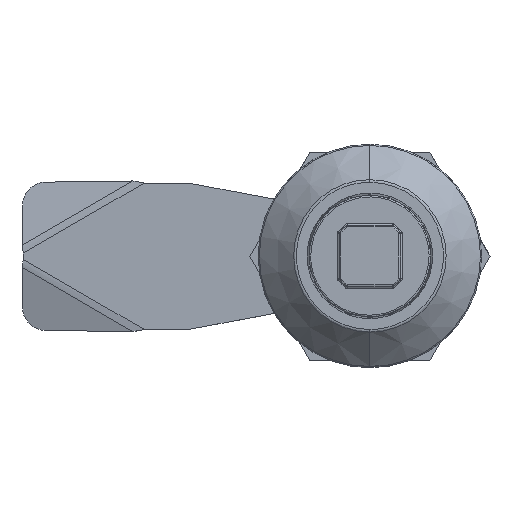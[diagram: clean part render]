
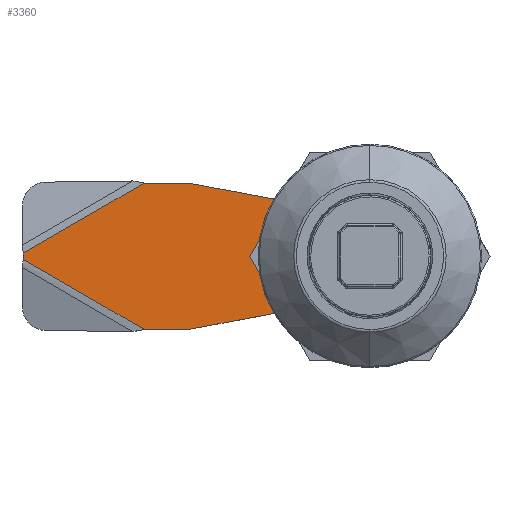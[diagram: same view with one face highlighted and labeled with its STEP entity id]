
A CAD part, top view. The second image highlights one B-rep face of the part: STEP entity #3360.
In plain terms, the highlighted planar face has unit normal (0, 0, 1).
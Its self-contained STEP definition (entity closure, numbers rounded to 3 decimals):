
#19 = AXIS2_PLACEMENT_3D ( 'NONE', #7993, #2541, #8928 ) ;
#62 = LINE ( 'NONE', #11150, #6136 ) ;
#123 = AXIS2_PLACEMENT_3D ( 'NONE', #7961, #2502, #8900 ) ;
#168 = CARTESIAN_POINT ( 'NONE',  ( 45., 0.433, 3. ) ) ;
#295 = DIRECTION ( 'NONE',  ( 0., 0., -1. ) ) ;
#407 = ORIENTED_EDGE ( 'NONE', *, *, #3313, .F. ) ;
#438 = VERTEX_POINT ( 'NONE', #9801 ) ;
#439 = LINE ( 'NONE', #10475, #3119 ) ;
#455 = DIRECTION ( 'NONE',  ( 0., 1., 0. ) ) ;
#465 = DIRECTION ( 'NONE',  ( 0., 0., 1. ) ) ;
#488 = LINE ( 'NONE', #5425, #5020 ) ;
#661 = LINE ( 'NONE', #2211, #5192 ) ;
#840 = DIRECTION ( 'NONE',  ( 1., 0., 0. ) ) ;
#861 = VERTEX_POINT ( 'NONE', #3829 ) ;
#1141 = VERTEX_POINT ( 'NONE', #10988 ) ;
#1231 = DIRECTION ( 'NONE',  ( 0., -1., 0. ) ) ;
#1270 = EDGE_LOOP ( 'NONE', ( #10402, #2420, #1677, #6710 ) ) ;
#1354 = CARTESIAN_POINT ( 'NONE',  ( 45., 6.5, 3. ) ) ;
#1489 = LINE ( 'NONE', #8559, #3616 ) ;
#1502 = DIRECTION ( 'NONE',  ( -0.866, -0.5, 0. ) ) ;
#1543 = CARTESIAN_POINT ( 'NONE',  ( 4.05, -4.05, 3. ) ) ;
#1677 = ORIENTED_EDGE ( 'NONE', *, *, #11009, .T. ) ;
#1770 = FACE_BOUND ( 'NONE', #1270, .T. ) ;
#1807 = EDGE_CURVE ( 'NONE', #438, #10769, #439, .T. ) ;
#1876 = VERTEX_POINT ( 'NONE', #3227 ) ;
#1964 = ORIENTED_EDGE ( 'NONE', *, *, #7784, .T. ) ;
#2126 = CARTESIAN_POINT ( 'NONE',  ( 4.05, 4.05, 3. ) ) ;
#2211 = CARTESIAN_POINT ( 'NONE',  ( 4.05, -4.05, 3. ) ) ;
#2298 = ORIENTED_EDGE ( 'NONE', *, *, #5026, .T. ) ;
#2420 = ORIENTED_EDGE ( 'NONE', *, *, #1807, .T. ) ;
#2499 = CARTESIAN_POINT ( 'NONE',  ( 10., -9.5, 3. ) ) ;
#2502 = DIRECTION ( 'NONE',  ( 0., 0., -1. ) ) ;
#2537 = ORIENTED_EDGE ( 'NONE', *, *, #2621, .F. ) ;
#2541 = DIRECTION ( 'NONE',  ( 0., 0., -1. ) ) ;
#2621 = EDGE_CURVE ( 'NONE', #7794, #8469, #11043, .T. ) ;
#2768 = LINE ( 'NONE', #4438, #7618 ) ;
#2869 = VERTEX_POINT ( 'NONE', #5802 ) ;
#3119 = VECTOR ( 'NONE', #4985, 1000. ) ;
#3227 = CARTESIAN_POINT ( 'NONE',  ( 9.593, 7.033, 3. ) ) ;
#3313 = EDGE_CURVE ( 'NONE', #1141, #5541, #6597, .T. ) ;
#3352 = VECTOR ( 'NONE', #455, 1000. ) ;
#3355 = CARTESIAN_POINT ( 'NONE',  ( 9.593, -7.033, 3. ) ) ;
#3360 = ADVANCED_FACE ( 'NONE', ( #1770, #3869 ), #10656, .F. ) ;
#3412 = DIRECTION ( 'NONE',  ( -1., 0., 0. ) ) ;
#3530 = AXIS2_PLACEMENT_3D ( 'NONE', #5711, #295, #6637 ) ;
#3560 = CARTESIAN_POINT ( 'NONE',  ( 42., -9.5, 3. ) ) ;
#3616 = VECTOR ( 'NONE', #1231, 1000. ) ;
#3654 = DIRECTION ( 'NONE',  ( 0.983, -0.185, 0. ) ) ;
#3709 = ORIENTED_EDGE ( 'NONE', *, *, #6350, .F. ) ;
#3826 = VERTEX_POINT ( 'NONE', #8893 ) ;
#3829 = CARTESIAN_POINT ( 'NONE',  ( 1.383, 8.387, 3. ) ) ;
#3869 = FACE_OUTER_BOUND ( 'NONE', #4840, .T. ) ;
#3942 = VERTEX_POINT ( 'NONE', #5830 ) ;
#4020 = CARTESIAN_POINT ( 'NONE',  ( 9.593, 7.033, 3. ) ) ;
#4039 = CARTESIAN_POINT ( 'NONE',  ( 23.5, 9.5, 3. ) ) ;
#4046 = CIRCLE ( 'NONE', #3530, 8.5 ) ;
#4241 = EDGE_CURVE ( 'NONE', #6066, #2869, #62, .T. ) ;
#4368 = LINE ( 'NONE', #4020, #11670 ) ;
#4438 = CARTESIAN_POINT ( 'NONE',  ( 42., 9.5, 3. ) ) ;
#4512 = VERTEX_POINT ( 'NONE', #10660 ) ;
#4572 = CARTESIAN_POINT ( 'NONE',  ( 10.463, -7.043, 3. ) ) ;
#4610 = CARTESIAN_POINT ( 'NONE',  ( 45., -0.433, 3. ) ) ;
#4635 = VECTOR ( 'NONE', #1502, 1000. ) ;
#4840 = EDGE_LOOP ( 'NONE', ( #10427, #407, #8805, #6189, #6096, #2298, #6787, #8588, #1964, #2537, #6393, #7086, #3709 ) ) ;
#4965 = VERTEX_POINT ( 'NONE', #2126 ) ;
#4985 = DIRECTION ( 'NONE',  ( 0., 1., 0. ) ) ;
#5020 = VECTOR ( 'NONE', #6322, 1000. ) ;
#5026 = EDGE_CURVE ( 'NONE', #1876, #861, #4368, .T. ) ;
#5192 = VECTOR ( 'NONE', #8589, 1000. ) ;
#5309 = VERTEX_POINT ( 'NONE', #1543 ) ;
#5425 = CARTESIAN_POINT ( 'NONE',  ( 9.593, -7.033, 3. ) ) ;
#5541 = VERTEX_POINT ( 'NONE', #168 ) ;
#5620 = LINE ( 'NONE', #3560, #10511 ) ;
#5648 = DIRECTION ( 'NONE',  ( -0.983, -0.185, 0. ) ) ;
#5672 = AXIS2_PLACEMENT_3D ( 'NONE', #5886, #465, #6820 ) ;
#5711 = CARTESIAN_POINT ( 'NONE',  ( 0., 0., 3. ) ) ;
#5770 = LINE ( 'NONE', #1354, #3352 ) ;
#5802 = CARTESIAN_POINT ( 'NONE',  ( 10.463, 7.043, 3. ) ) ;
#5830 = CARTESIAN_POINT ( 'NONE',  ( 1.383, -8.387, 3. ) ) ;
#5886 = CARTESIAN_POINT ( 'NONE',  ( 10., 9.5, 3. ) ) ;
#6029 = DIRECTION ( 'NONE',  ( 0.866, -0.5, 0. ) ) ;
#6066 = VERTEX_POINT ( 'NONE', #4039 ) ;
#6069 = EDGE_CURVE ( 'NONE', #4512, #5541, #5770, .T. ) ;
#6096 = ORIENTED_EDGE ( 'NONE', *, *, #10389, .F. ) ;
#6136 = VECTOR ( 'NONE', #5648, 1000. ) ;
#6189 = ORIENTED_EDGE ( 'NONE', *, *, #4241, .T. ) ;
#6264 = DIRECTION ( 'NONE',  ( -1., 0., 0. ) ) ;
#6322 = DIRECTION ( 'NONE',  ( 0.987, 0.163, 0. ) ) ;
#6335 = EDGE_CURVE ( 'NONE', #7794, #9422, #11649, .T. ) ;
#6350 = EDGE_CURVE ( 'NONE', #4512, #11310, #6779, .T. ) ;
#6393 = ORIENTED_EDGE ( 'NONE', *, *, #6335, .T. ) ;
#6396 = EDGE_CURVE ( 'NONE', #3826, #861, #8936, .T. ) ;
#6502 = EDGE_CURVE ( 'NONE', #9422, #11310, #5620, .T. ) ;
#6597 = LINE ( 'NONE', #10621, #9355 ) ;
#6637 = DIRECTION ( 'NONE',  ( -1., 0., 0. ) ) ;
#6710 = ORIENTED_EDGE ( 'NONE', *, *, #10558, .T. ) ;
#6779 = LINE ( 'NONE', #4610, #4635 ) ;
#6787 = ORIENTED_EDGE ( 'NONE', *, *, #6396, .F. ) ;
#6820 = DIRECTION ( 'NONE',  ( -1., 0., 0. ) ) ;
#6938 = AXIS2_PLACEMENT_3D ( 'NONE', #2499, #8895, #3412 ) ;
#7086 = ORIENTED_EDGE ( 'NONE', *, *, #6502, .T. ) ;
#7241 = CARTESIAN_POINT ( 'NONE',  ( -4.05, 4.05, 3. ) ) ;
#7593 = CARTESIAN_POINT ( 'NONE',  ( -4.05, 4.05, 3. ) ) ;
#7618 = VECTOR ( 'NONE', #6264, 1000. ) ;
#7703 = DIRECTION ( 'NONE',  ( -0.987, 0.163, 0. ) ) ;
#7784 = EDGE_CURVE ( 'NONE', #3942, #8469, #488, .T. ) ;
#7794 = VERTEX_POINT ( 'NONE', #8166 ) ;
#7961 = CARTESIAN_POINT ( 'NONE',  ( 10., -9.5, 3. ) ) ;
#7993 = CARTESIAN_POINT ( 'NONE',  ( 0., 0., 3. ) ) ;
#8166 = CARTESIAN_POINT ( 'NONE',  ( 10.463, -7.043, 3. ) ) ;
#8191 = LINE ( 'NONE', #7593, #10356 ) ;
#8469 = VERTEX_POINT ( 'NONE', #3355 ) ;
#8502 = DIRECTION ( 'NONE',  ( 1., 0., 0. ) ) ;
#8559 = CARTESIAN_POINT ( 'NONE',  ( 4.05, 4.05, 3. ) ) ;
#8588 = ORIENTED_EDGE ( 'NONE', *, *, #9573, .F. ) ;
#8589 = DIRECTION ( 'NONE',  ( -1., 0., 0. ) ) ;
#8805 = ORIENTED_EDGE ( 'NONE', *, *, #10718, .T. ) ;
#8893 = CARTESIAN_POINT ( 'NONE',  ( -8.5, 0., 3. ) ) ;
#8895 = DIRECTION ( 'NONE',  ( 0., 0., 1. ) ) ;
#8900 = DIRECTION ( 'NONE',  ( -1., 0., 0. ) ) ;
#8928 = DIRECTION ( 'NONE',  ( -1., 0., 0. ) ) ;
#8936 = CIRCLE ( 'NONE', #19, 8.5 ) ;
#9005 = CARTESIAN_POINT ( 'NONE',  ( 29.295, -9.5, 3. ) ) ;
#9246 = VECTOR ( 'NONE', #3654, 1000. ) ;
#9355 = VECTOR ( 'NONE', #6029, 1000. ) ;
#9422 = VERTEX_POINT ( 'NONE', #11260 ) ;
#9573 = EDGE_CURVE ( 'NONE', #3942, #3826, #4046, .T. ) ;
#9801 = CARTESIAN_POINT ( 'NONE',  ( -4.05, -4.05, 3. ) ) ;
#10356 = VECTOR ( 'NONE', #8502, 1000. ) ;
#10389 = EDGE_CURVE ( 'NONE', #1876, #2869, #11770, .T. ) ;
#10402 = ORIENTED_EDGE ( 'NONE', *, *, #11062, .T. ) ;
#10427 = ORIENTED_EDGE ( 'NONE', *, *, #6069, .T. ) ;
#10475 = CARTESIAN_POINT ( 'NONE',  ( -4.05, -4.05, 3. ) ) ;
#10511 = VECTOR ( 'NONE', #840, 1000. ) ;
#10558 = EDGE_CURVE ( 'NONE', #4965, #5309, #1489, .T. ) ;
#10621 = CARTESIAN_POINT ( 'NONE',  ( 29.295, 9.5, 3. ) ) ;
#10656 = PLANE ( 'NONE',  #123 ) ;
#10660 = CARTESIAN_POINT ( 'NONE',  ( 45., -0.433, 3. ) ) ;
#10718 = EDGE_CURVE ( 'NONE', #1141, #6066, #2768, .T. ) ;
#10769 = VERTEX_POINT ( 'NONE', #7241 ) ;
#10988 = CARTESIAN_POINT ( 'NONE',  ( 29.295, 9.5, 3. ) ) ;
#11009 = EDGE_CURVE ( 'NONE', #10769, #4965, #8191, .T. ) ;
#11043 = CIRCLE ( 'NONE', #6938, 2.5 ) ;
#11062 = EDGE_CURVE ( 'NONE', #5309, #438, #661, .T. ) ;
#11150 = CARTESIAN_POINT ( 'NONE',  ( 10.463, 7.043, 3. ) ) ;
#11260 = CARTESIAN_POINT ( 'NONE',  ( 23.5, -9.5, 3. ) ) ;
#11310 = VERTEX_POINT ( 'NONE', #9005 ) ;
#11649 = LINE ( 'NONE', #4572, #9246 ) ;
#11670 = VECTOR ( 'NONE', #7703, 1000. ) ;
#11770 = CIRCLE ( 'NONE', #5672, 2.5 ) ;
